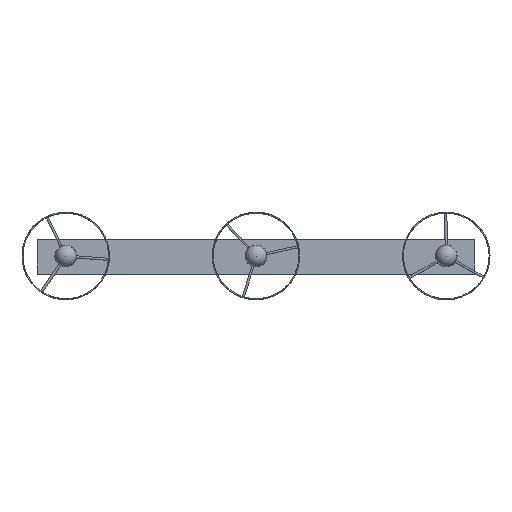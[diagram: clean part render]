
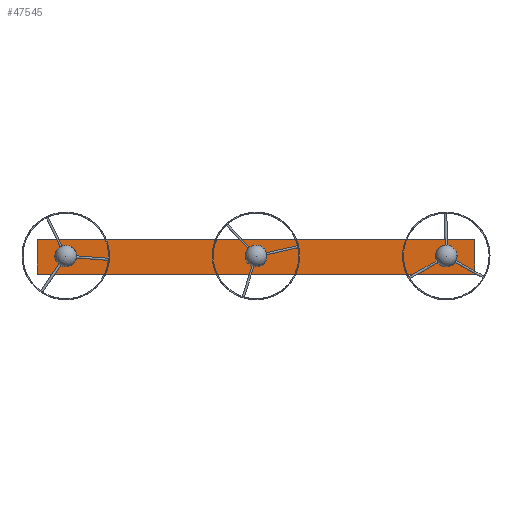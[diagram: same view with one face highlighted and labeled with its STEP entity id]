
A CAD part, top view. The second image highlights one B-rep face of the part: STEP entity #47545.
In plain terms, the highlighted planar face has unit normal (0, 0, 1).
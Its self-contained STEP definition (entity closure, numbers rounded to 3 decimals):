
#49=LINE('',#69083,#4765);
#52=LINE('',#69089,#4768);
#55=LINE('',#69095,#4771);
#58=LINE('',#69099,#4774);
#4765=VECTOR('',#54824,10.);
#4768=VECTOR('',#54829,10.);
#4771=VECTOR('',#54834,10.);
#4774=VECTOR('',#54839,10.);
#9512=FACE_BOUND('',#13129,.T.);
#9513=FACE_BOUND('',#13130,.T.);
#9514=FACE_BOUND('',#13131,.T.);
#10730=FACE_OUTER_BOUND('',#13128,.T.);
#13128=EDGE_LOOP('',(#30960,#30961,#30962,#30963));
#13129=EDGE_LOOP('',(#30964));
#13130=EDGE_LOOP('',(#30965));
#13131=EDGE_LOOP('',(#30966));
#16707=CIRCLE('',#50004,10.);
#16709=CIRCLE('',#50008,10.);
#16711=CIRCLE('',#50012,10.);
#19084=VERTEX_POINT('',#69061);
#19086=VERTEX_POINT('',#69067);
#19088=VERTEX_POINT('',#69073);
#19091=VERTEX_POINT('',#69080);
#19092=VERTEX_POINT('',#69082);
#19094=VERTEX_POINT('',#69088);
#19096=VERTEX_POINT('',#69094);
#23827=EDGE_CURVE('',#19084,#19084,#16707,.T.);
#23829=EDGE_CURVE('',#19086,#19086,#16709,.T.);
#23831=EDGE_CURVE('',#19088,#19088,#16711,.T.);
#23834=EDGE_CURVE('',#19092,#19091,#49,.T.);
#23837=EDGE_CURVE('',#19094,#19092,#52,.T.);
#23840=EDGE_CURVE('',#19096,#19094,#55,.T.);
#23843=EDGE_CURVE('',#19091,#19096,#58,.T.);
#30960=ORIENTED_EDGE('',*,*,#23843,.T.);
#30961=ORIENTED_EDGE('',*,*,#23840,.T.);
#30962=ORIENTED_EDGE('',*,*,#23837,.T.);
#30963=ORIENTED_EDGE('',*,*,#23834,.T.);
#30964=ORIENTED_EDGE('',*,*,#23827,.T.);
#30965=ORIENTED_EDGE('',*,*,#23829,.T.);
#30966=ORIENTED_EDGE('',*,*,#23831,.T.);
#45131=PLANE('',#50019);
#47545=ADVANCED_FACE('',(#10730,#9512,#9513,#9514),#45131,.T.);
#50004=AXIS2_PLACEMENT_3D('',#69062,#54800,#54801);
#50008=AXIS2_PLACEMENT_3D('',#69068,#54808,#54809);
#50012=AXIS2_PLACEMENT_3D('',#69074,#54816,#54817);
#50019=AXIS2_PLACEMENT_3D('',#69101,#54842,#54843);
#54800=DIRECTION('center_axis',(0.,0.,-1.));
#54801=DIRECTION('ref_axis',(-1.,0.,0.));
#54808=DIRECTION('center_axis',(0.,0.,-1.));
#54809=DIRECTION('ref_axis',(-1.,0.,0.));
#54816=DIRECTION('center_axis',(0.,0.,-1.));
#54817=DIRECTION('ref_axis',(-1.,0.,0.));
#54824=DIRECTION('',(0.,1.,0.));
#54829=DIRECTION('',(1.,0.,0.));
#54834=DIRECTION('',(0.,-1.,0.));
#54839=DIRECTION('',(-1.,0.,0.));
#54842=DIRECTION('center_axis',(0.,0.,1.));
#54843=DIRECTION('ref_axis',(1.,0.,0.));
#69061=CARTESIAN_POINT('',(445.,0.,20.));
#69062=CARTESIAN_POINT('Origin',(435.,0.,20.));
#69067=CARTESIAN_POINT('',(-425.,0.,20.));
#69068=CARTESIAN_POINT('Origin',(-435.,0.,20.));
#69073=CARTESIAN_POINT('',(10.,0.,20.));
#69074=CARTESIAN_POINT('Origin',(0.,0.,20.));
#69080=CARTESIAN_POINT('',(500.,40.,20.));
#69082=CARTESIAN_POINT('',(500.,-40.,20.));
#69083=CARTESIAN_POINT('',(500.,40.,20.));
#69088=CARTESIAN_POINT('',(-500.,-40.,20.));
#69089=CARTESIAN_POINT('',(500.,-40.,20.));
#69094=CARTESIAN_POINT('',(-500.,40.,20.));
#69095=CARTESIAN_POINT('',(-500.,-40.,20.));
#69099=CARTESIAN_POINT('',(-500.,40.,20.));
#69101=CARTESIAN_POINT('Origin',(0.,0.,20.));
